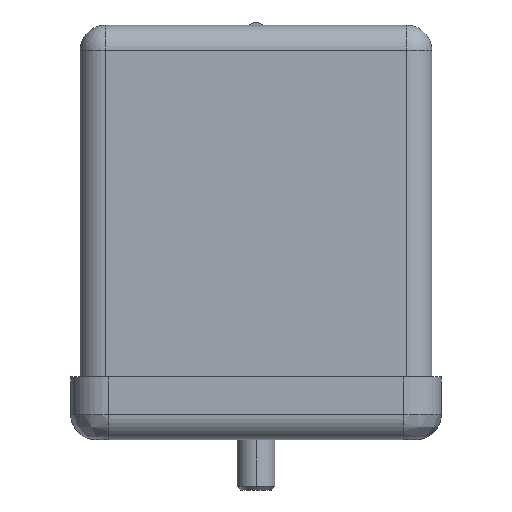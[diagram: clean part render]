
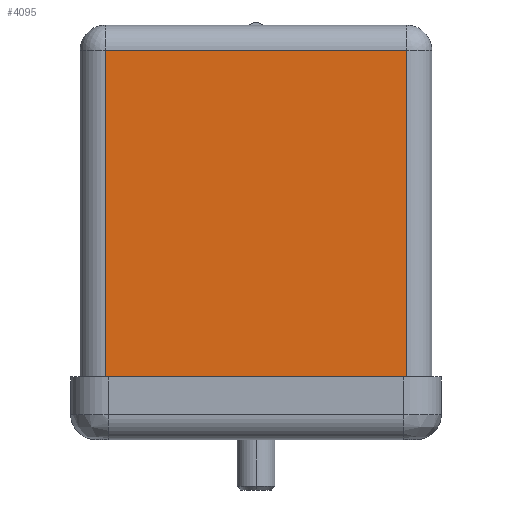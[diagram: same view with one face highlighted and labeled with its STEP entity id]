
A CAD part, left-side view. The second image highlights one B-rep face of the part: STEP entity #4095.
In plain terms, the highlighted planar face has unit normal (-1, 0, 0).
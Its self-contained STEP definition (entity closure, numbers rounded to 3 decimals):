
#1304=DIRECTION('',(0.,-1.,0.));
#1305=VECTOR('',#1304,24.);
#1306=CARTESIAN_POINT('',(-14.,12.,31.));
#1307=LINE('',#1306,#1305);
#1311=DIRECTION('',(0.,-1.,0.));
#1312=VECTOR('',#1311,24.);
#1313=CARTESIAN_POINT('',(-14.,12.,5.));
#1314=LINE('',#1313,#1312);
#1318=DIRECTION('',(0.,0.,1.));
#1319=VECTOR('',#1318,26.);
#1320=CARTESIAN_POINT('',(-14.,12.,5.));
#1321=LINE('',#1320,#1319);
#1357=DIRECTION('',(0.,0.,1.));
#1358=VECTOR('',#1357,26.);
#1359=CARTESIAN_POINT('',(-14.,-12.,5.));
#1360=LINE('',#1359,#1358);
#2138=CARTESIAN_POINT('',(-14.,12.,5.));
#2139=VERTEX_POINT('',#2138);
#2140=CARTESIAN_POINT('',(-14.,-12.,5.));
#2141=VERTEX_POINT('',#2140);
#2156=CARTESIAN_POINT('',(-14.,12.,31.));
#2157=VERTEX_POINT('',#2156);
#2160=CARTESIAN_POINT('',(-14.,-12.,31.));
#2161=VERTEX_POINT('',#2160);
#4082=CARTESIAN_POINT('',(-14.,12.,0.));
#4083=DIRECTION('',(-1.,0.,0.));
#4084=DIRECTION('',(0.,-1.,0.));
#4085=AXIS2_PLACEMENT_3D('',#4082,#4083,#4084);
#4086=PLANE('',#4085);
#4088=ORIENTED_EDGE('',*,*,#4087,.T.);
#4090=ORIENTED_EDGE('',*,*,#4089,.F.);
#4091=ORIENTED_EDGE('',*,*,#2998,.F.);
#4092=ORIENTED_EDGE('',*,*,#4074,.T.);
#4093=EDGE_LOOP('',(#4088,#4090,#4091,#4092));
#4094=FACE_OUTER_BOUND('',#4093,.F.);
#2998=EDGE_CURVE('',#2139,#2141,#1314,.T.);
#4074=EDGE_CURVE('',#2139,#2157,#1321,.T.);
#4087=EDGE_CURVE('',#2157,#2161,#1307,.T.);
#4089=EDGE_CURVE('',#2141,#2161,#1360,.T.);
#4095=ADVANCED_FACE('',(#4094),#4086,.T.);
